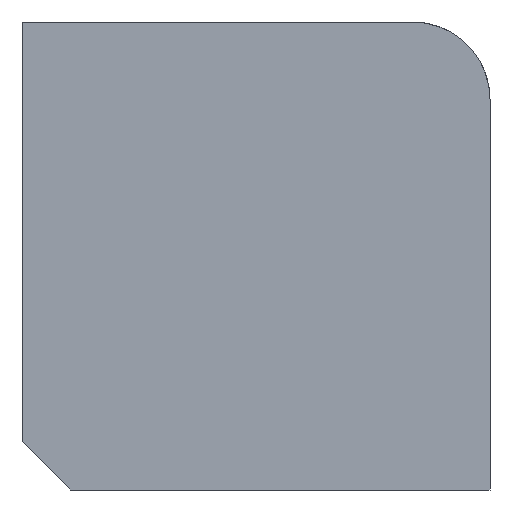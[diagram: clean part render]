
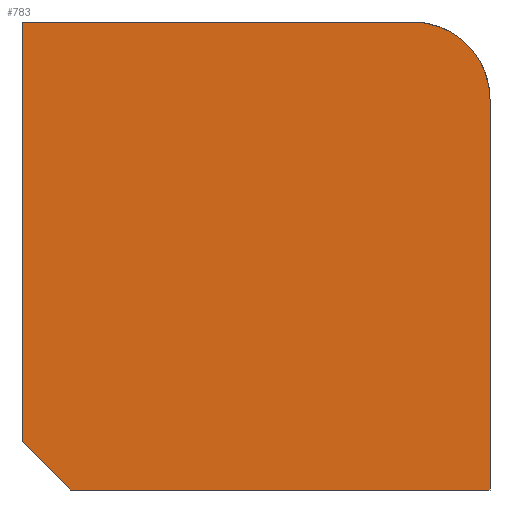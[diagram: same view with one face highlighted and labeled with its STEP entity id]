
A CAD part, front view. The second image highlights one B-rep face of the part: STEP entity #783.
In plain terms, the highlighted planar face has unit normal (0, -1, 0).
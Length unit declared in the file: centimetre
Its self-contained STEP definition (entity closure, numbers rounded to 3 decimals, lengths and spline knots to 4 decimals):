
#6 = ORIENTED_EDGE ( 'NONE', *, *, #257, .T. ) ;
#20 = CARTESIAN_POINT ( 'NONE',  ( 0., 0., 0. ) ) ;
#47 = ORIENTED_EDGE ( 'NONE', *, *, #877, .F. ) ;
#134 = DIRECTION ( 'NONE',  ( 0., -1., 0. ) ) ;
#136 = CARTESIAN_POINT ( 'NONE',  ( 834.259, 0., 1000. ) ) ;
#145 = CIRCLE ( 'NONE', #559, 165.741 ) ;
#169 = EDGE_CURVE ( 'NONE', #946, #243, #303, .T. ) ;
#183 = FACE_OUTER_BOUND ( 'NONE', #479, .T. ) ;
#214 = DIRECTION ( 'NONE',  ( 0., 0., -1. ) ) ;
#216 = VERTEX_POINT ( 'NONE', #808 ) ;
#233 = VECTOR ( 'NONE', #214, 100. ) ;
#243 = VERTEX_POINT ( 'NONE', #698 ) ;
#257 = EDGE_CURVE ( 'NONE', #243, #1036, #932, .T. ) ;
#263 = LINE ( 'NONE', #452, #488 ) ;
#303 = LINE ( 'NONE', #389, #390 ) ;
#315 = EDGE_CURVE ( 'NONE', #216, #946, #640, .T. ) ;
#341 = PLANE ( 'NONE',  #506 ) ;
#355 = DIRECTION ( 'NONE',  ( 1., 0., 0. ) ) ;
#366 = ORIENTED_EDGE ( 'NONE', *, *, #169, .T. ) ;
#389 = CARTESIAN_POINT ( 'NONE',  ( 0., 0., 103.9437 ) ) ;
#390 = VECTOR ( 'NONE', #727, 100. ) ;
#447 = EDGE_CURVE ( 'NONE', #923, #1034, #145, .T. ) ;
#452 = CARTESIAN_POINT ( 'NONE',  ( 0., 0., 1000. ) ) ;
#467 = CARTESIAN_POINT ( 'NONE',  ( 1000., 0., 1000. ) ) ;
#479 = EDGE_LOOP ( 'NONE', ( #661, #366, #6, #939, #712, #47 ) ) ;
#488 = VECTOR ( 'NONE', #836, 100. ) ;
#491 = CARTESIAN_POINT ( 'NONE',  ( 0., 0., 1000. ) ) ;
#506 = AXIS2_PLACEMENT_3D ( 'NONE', #491, #999, #818 ) ;
#541 = CARTESIAN_POINT ( 'NONE',  ( 1000., 0., 0. ) ) ;
#546 = VECTOR ( 'NONE', #884, 100. ) ;
#559 = AXIS2_PLACEMENT_3D ( 'NONE', #635, #134, #1035 ) ;
#635 = CARTESIAN_POINT ( 'NONE',  ( 834.259, 0., 834.259 ) ) ;
#640 = LINE ( 'NONE', #1039, #546 ) ;
#661 = ORIENTED_EDGE ( 'NONE', *, *, #315, .T. ) ;
#698 = CARTESIAN_POINT ( 'NONE',  ( 103.9437, 0., 0. ) ) ;
#712 = ORIENTED_EDGE ( 'NONE', *, *, #447, .T. ) ;
#727 = DIRECTION ( 'NONE',  ( 0.707, 0., -0.707 ) ) ;
#750 = VECTOR ( 'NONE', #355, 100. ) ;
#783 = ADVANCED_FACE ( 'NONE', ( #183 ), #341, .F. ) ;
#808 = CARTESIAN_POINT ( 'NONE',  ( 0., 0., 1000. ) ) ;
#818 = DIRECTION ( 'NONE',  ( 0., 0., 1. ) ) ;
#836 = DIRECTION ( 'NONE',  ( 1., 0., 0. ) ) ;
#877 = EDGE_CURVE ( 'NONE', #216, #1034, #263, .T. ) ;
#884 = DIRECTION ( 'NONE',  ( 0., 0., -1. ) ) ;
#923 = VERTEX_POINT ( 'NONE', #1027 ) ;
#932 = LINE ( 'NONE', #20, #750 ) ;
#939 = ORIENTED_EDGE ( 'NONE', *, *, #995, .F. ) ;
#946 = VERTEX_POINT ( 'NONE', #1009 ) ;
#995 = EDGE_CURVE ( 'NONE', #923, #1036, #1021, .T. ) ;
#999 = DIRECTION ( 'NONE',  ( 0., 1., 0. ) ) ;
#1009 = CARTESIAN_POINT ( 'NONE',  ( 0., 0., 103.9437 ) ) ;
#1021 = LINE ( 'NONE', #467, #233 ) ;
#1027 = CARTESIAN_POINT ( 'NONE',  ( 1000., 0., 834.259 ) ) ;
#1034 = VERTEX_POINT ( 'NONE', #136 ) ;
#1035 = DIRECTION ( 'NONE',  ( 0., 0., 1. ) ) ;
#1036 = VERTEX_POINT ( 'NONE', #541 ) ;
#1039 = CARTESIAN_POINT ( 'NONE',  ( 0., 0., 1000. ) ) ;
